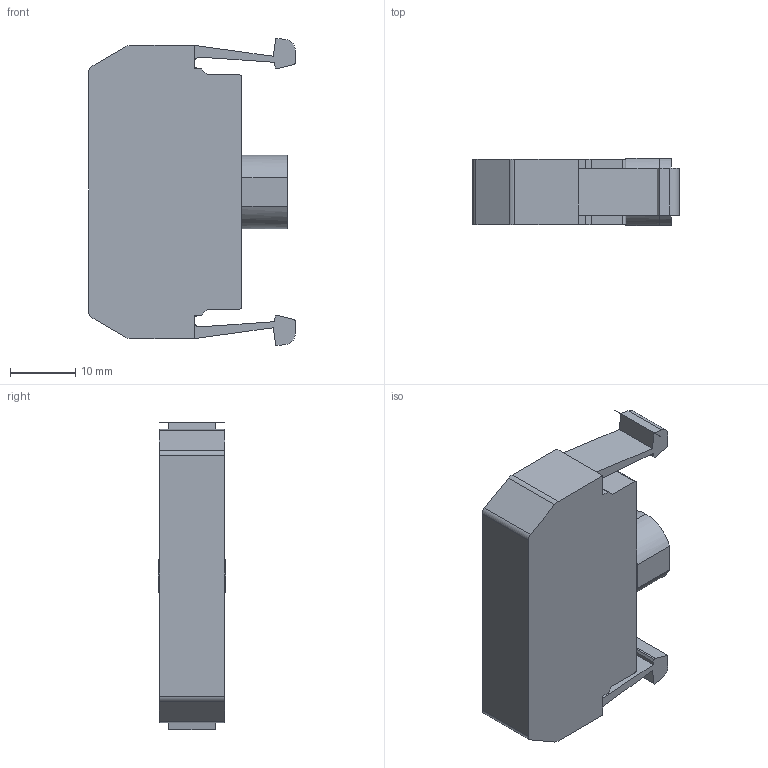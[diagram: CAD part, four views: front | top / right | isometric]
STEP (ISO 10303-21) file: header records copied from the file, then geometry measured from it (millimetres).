
FILE_DESCRIPTION (( 'STEP AP203' ), '1' );
FILE_NAME ('B3F.STEP', '2012-09-05T10:34:42', ( 'schulung' ), ( 'Microsoft' ), 'SwSTEP 2.0', 'SolidWorks 2012', '' );
FILE_SCHEMA (( 'CONFIG_CONTROL_DESIGN' ));
Length unit declared in the file: millimetre
Products named in the file (1): B3F
Bounding box: 31.7 x 10.4 x 47.2 mm (x, y, z)
Volume: 10837.9 mm3; surface area: 4120.4 mm2
Topology: 1 solids, 1 shells, 78 faces, 220 edges, 144 vertices
Faces by surface type: plane 56, cylinder 22
Entity records: 2587 total; most frequent: CARTESIAN_POINT 443, ORIENTED_EDGE 440, DIRECTION 428, EDGE_CURVE 220, VECTOR 170, LINE 170, VERTEX_POINT 144, AXIS2_PLACEMENT_3D 129
